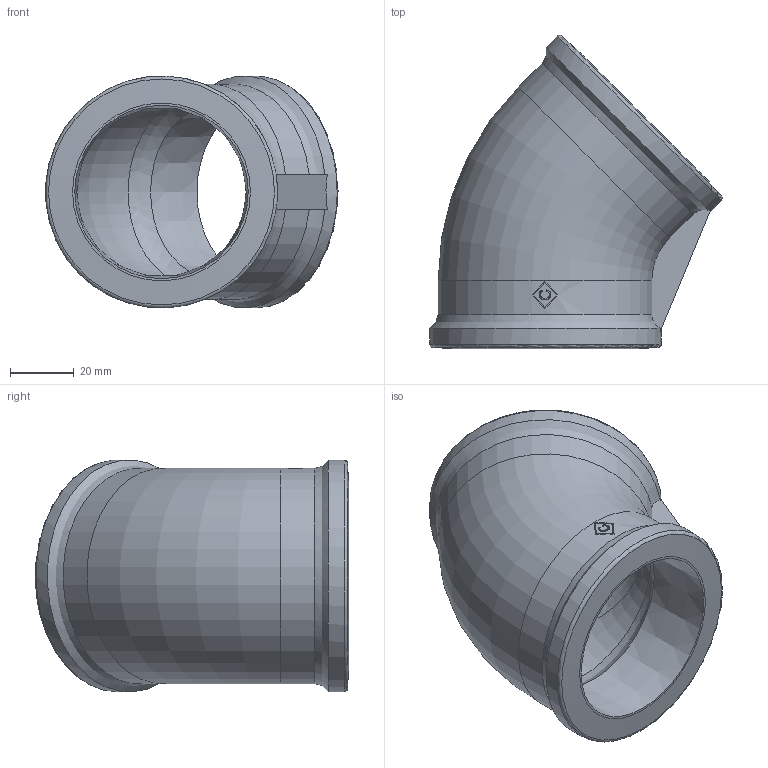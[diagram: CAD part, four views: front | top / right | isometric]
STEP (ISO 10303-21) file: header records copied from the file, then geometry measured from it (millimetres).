
FILE_DESCRIPTION((''),'2;1');
FILE_NAME('P:\Fastrack\53909_CRANE\Crane\Fig.155 45deg Elbow\New 2.00 inch\155-2.00x45.stp','2009-09-16T11:06:46',('btaylor'),(''),'Autodesk Inventor 2008','Autodesk Inventor 2008','');
FILE_SCHEMA(('AUTOMOTIVE_DESIGN { 1 0 10303 214 1 1 1 1 }'));
Length unit declared in the file: millimetre
Products named in the file (1): 155-2.00x45
Bounding box: 91.73 x 98.42 x 72.77 mm (x, y, z)
Volume: 104110 mm3; surface area: 37340.4 mm2
Topology: 1 solids, 1 shells, 42 faces, 108 edges, 71 vertices
Faces by surface type: plane 15, bspline 12, cylinder 7, torus 4, cone 4
Full cylindrical faces by diameter (mm): 72.8 x2
Entity records: 2917 total; most frequent: CARTESIAN_POINT 1941, ORIENTED_EDGE 194, DIRECTION 180, EDGE_CURVE 97, AXIS2_PLACEMENT_3D 76, VERTEX_POINT 69, EDGE_LOOP 56, FACE_OUTER_BOUND 42
